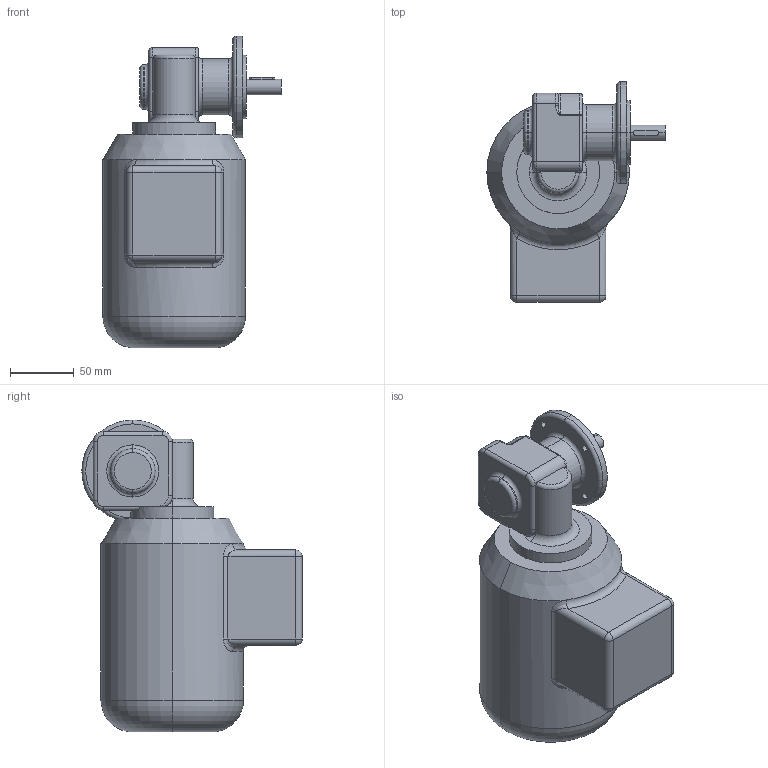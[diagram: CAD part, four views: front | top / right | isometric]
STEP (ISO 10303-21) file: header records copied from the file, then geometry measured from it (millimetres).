
FILE_DESCRIPTION (( 'STEP AP203' ), '1' );
FILE_NAME ('SN5FR-90,120W-C.STEP', '2007-09-13T06:21:32', ( ' ' ), ( ' ' ), 'SwSTEP 2.0', 'SolidWorks 2006233', '' );
FILE_SCHEMA (( 'CONFIG_CONTROL_DESIGN' ));
Length unit declared in the file: millimetre
Products named in the file (3): BG56of_Standard; SN5FR-Lose_Standard; SN5FR-90,120W-C
Assembly tree (2 placements, depth 2):
  SN5FR-90,120W-C
    SN5FR-Lose_Standard
    BG56of_Standard
Bounding box: 140 x 173 x 245 mm (x, y, z)
Volume: 2145983.7 mm3; surface area: 123053.8 mm2
Topology: 2 solids, 2 shells, 138 faces, 315 edges, 180 vertices
Faces by surface type: cylinder 61, torus 32, plane 27, sphere 8, bspline 8, cone 2
Entity records: 5048 total; most frequent: CARTESIAN_POINT 1632, DIRECTION 721, ORIENTED_EDGE 618, EDGE_CURVE 309, AXIS2_PLACEMENT_3D 309, VERTEX_POINT 180, CIRCLE 174, EDGE_LOOP 151
